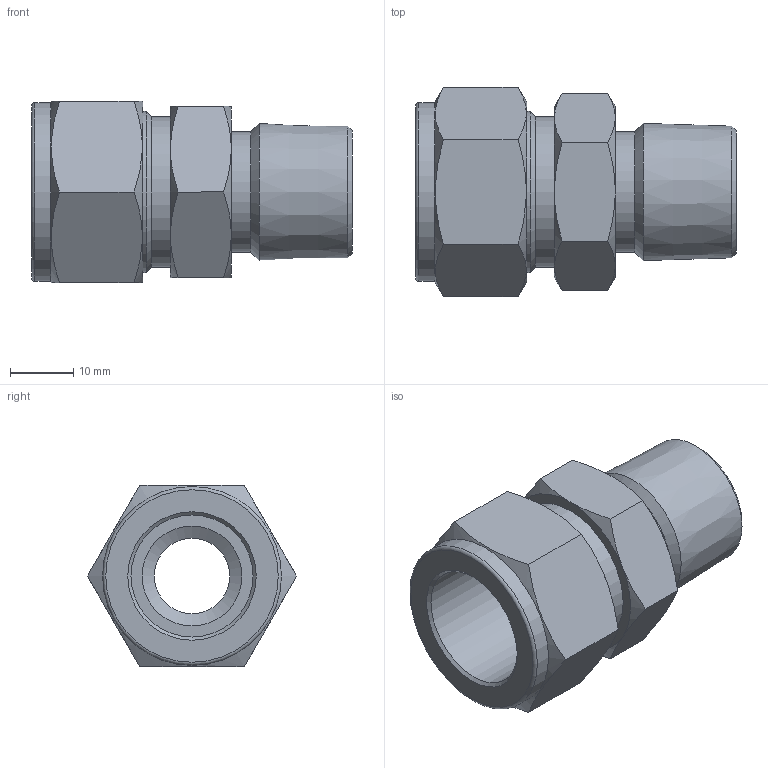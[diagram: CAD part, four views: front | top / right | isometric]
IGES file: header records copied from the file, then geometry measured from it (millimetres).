
Global section: file name: No Iges File Name specified; native system: Autodesk Inventor 2012; preprocessor: AutoDesk Inventor Iges Exporter R2012; author: 硅己绕,, ; organization: 11; date: 20150603.093258; units: millimetre
Bounding box: 50.59 x 33 x 28.57 mm (x, y, z)
Volume: 16311.5 mm3; surface area: 8045.9 mm2
Topology: 1 solids, 1 shells, 48 faces, 99 edges, 58 vertices
Faces by surface type: plane 19, cone 18, revolution 6, cylinder 4, torus 1
Full cylindrical faces by diameter (mm): 19 x1, 23.7 x1, 25.4 x1, 28.2 x1
